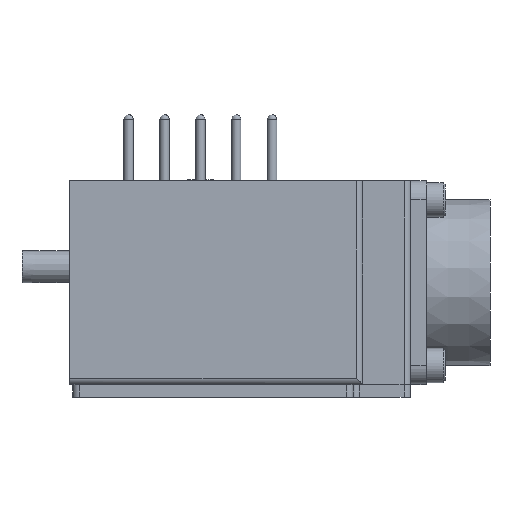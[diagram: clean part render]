
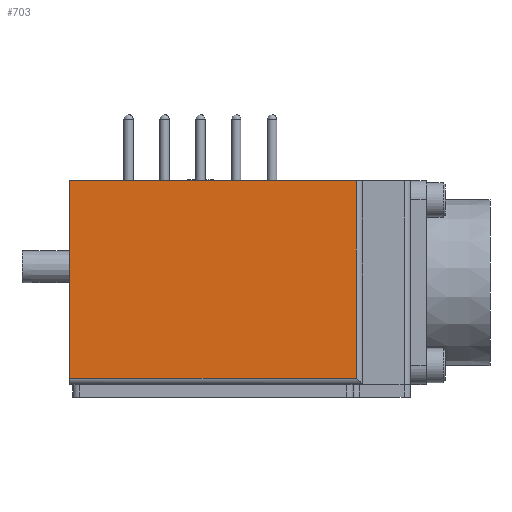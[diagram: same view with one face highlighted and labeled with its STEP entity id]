
A CAD part, left-side view. The second image highlights one B-rep face of the part: STEP entity #703.
In plain terms, the highlighted planar face has unit normal (-1, 0, 0).
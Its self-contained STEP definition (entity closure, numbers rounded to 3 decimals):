
#703=ADVANCED_FACE('',(#1778),#1779,.F.);
#1778=FACE_OUTER_BOUND('',#3278,.T.);
#1779=PLANE('',#3279);
#3278=EDGE_LOOP('',(#5217,#5218,#5219,#5220));
#3279=AXIS2_PLACEMENT_3D('',#5221,#5222,#5223);
#5217=ORIENTED_EDGE('',*,*,#8371,.T.);
#5218=ORIENTED_EDGE('',*,*,#8197,.T.);
#5219=ORIENTED_EDGE('',*,*,#8114,.T.);
#5220=ORIENTED_EDGE('',*,*,#8317,.F.);
#5221=CARTESIAN_POINT('',(-33.0,0.,13.5));
#5222=DIRECTION('',(1.0,0.0,0.0));
#5223=DIRECTION('',(0.0,1.0,0.0));
#8114=EDGE_CURVE('',#9558,#9556,#9559,.T.);
#8197=EDGE_CURVE('',#9692,#9558,#9697,.T.);
#8317=EDGE_CURVE('',#9896,#9556,#9898,.T.);
#8371=EDGE_CURVE('',#9896,#9692,#9972,.T.);
#9556=VERTEX_POINT('',#11613);
#9558=VERTEX_POINT('',#11615);
#9559=LINE('',#11616,#11617);
#9692=VERTEX_POINT('',#11795);
#9697=LINE('',#11802,#11803);
#9896=VERTEX_POINT('',#12063);
#9898=LINE('',#12066,#12067);
#9972=LINE('',#12172,#12173);
#11613=CARTESIAN_POINT('',(-33.0,-45.,13.5));
#11615=CARTESIAN_POINT('',(-33.0,-45.,-17.5));
#11616=CARTESIAN_POINT('',(-33.0,-45.,13.5));
#11617=VECTOR('',#14077,1.0);
#11795=CARTESIAN_POINT('',(-33.0,0.,-17.5));
#11802=CARTESIAN_POINT('',(-33.0,0.,-17.5));
#11803=VECTOR('',#14167,1.0);
#12063=CARTESIAN_POINT('',(-33.0,0.,13.5));
#12066=CARTESIAN_POINT('',(-33.0,0.,13.5));
#12067=VECTOR('',#14329,1.0);
#12172=CARTESIAN_POINT('',(-33.0,0.,13.5));
#12173=VECTOR('',#14385,1.0);
#14077=DIRECTION('',(0.0,0.0,1.0));
#14167=DIRECTION('',(0.0,-1.0,0.0));
#14329=DIRECTION('',(0.0,-1.0,0.0));
#14385=DIRECTION('',(0.0,0.0,-1.0));
